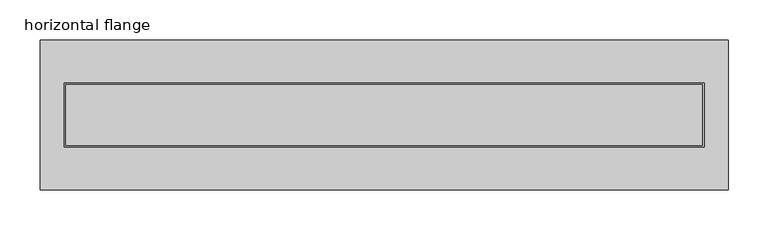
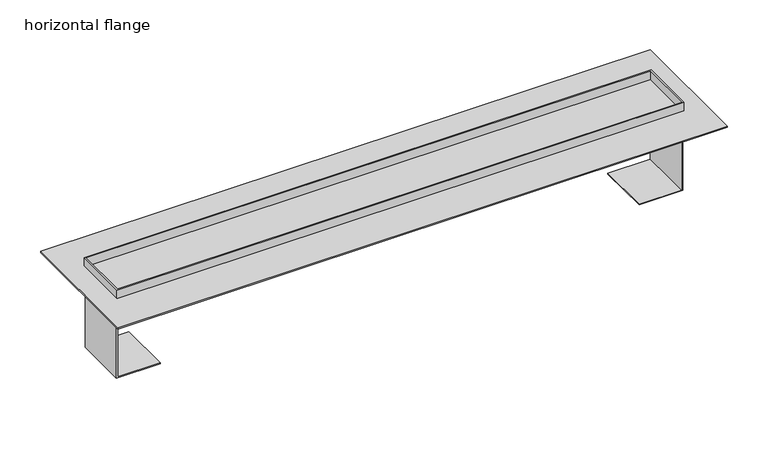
"""IFC4 building model written with IfcOpenShell, lengths in millimetres: sanitary terminal geometry, PF_UN_ShowerDrain M plus_ACO : horizontal flange."""

from ifc_helpers import new_model, si_unit, frame, origin, origin_with_axes, place, context, project, spatial, polyline, outline, extrude, faceted_brep, source, transform, mapped, element, save


def horizontal_flange_7aac90f1(model_context):
    return source(origin(), model_context, "Body", "SolidModel", [
        extrude(outline(polyline([(430.0, 94.0), (430.0, -94.0), (-430.0, -94.0), (-430.0, 94.0), (430.0, 94.0)])), origin_with_axes(), (0.0, 0.0, 1.0), 2.0),
        extrude(outline(polyline([(-16.5, -398.0), (-16.5, -400.0), (-117.5, -400.0), (-117.5, -338.0), (-116.5, -338.0), (-116.5, -398.0), (-16.5, -398.0)])), frame((0.0, -38.0, 0.0), z_axis=(0.0, 1.0, 0.0), x_axis=(0.0, 0.0, 1.0)), (0.0, 0.0, 1.0), 76.0),
        extrude(outline(polyline([(-16.5, 398.0), (-116.5, 398.0), (-116.5, 338.0), (-117.5, 338.0), (-117.5, 400.0), (-16.5, 400.0), (-16.5, 398.0)])), frame((0.0, -38.0, 0.0), z_axis=(0.0, 1.0, 0.0), x_axis=(0.0, 0.0, 1.0)), (0.0, 0.0, 1.0), 76.0),
        faceted_brep([(400.0, 40.0, 15.0), (-400.0, 40.0, 15.0), (-400.0, -40.0, 15.0), (400.0, -40.0, 15.0), (-398.0, -38.0, 15.0), (-398.0, 38.0, 15.0), (398.0, 38.0, 15.0), (398.0, -38.0, 15.0), (400.0, 40.0, -16.5), (400.0, -40.0, -16.5), (-400.0, -40.0, -16.5), (-400.0, 40.0, -16.5), (-398.0, 38.0, -6.0), (-398.0, -38.0, -6.0), (398.0, -38.0, -6.0), (398.0, 38.0, -6.0)], [[[0, 1, 2, 3], [4, 5, 6, 7]], [[8, 9, 10, 11]], [[1, 0, 8, 11]], [[2, 1, 11, 10]], [[3, 2, 10, 9]], [[0, 3, 9, 8]], [[12, 13, 14, 15]], [[13, 12, 5, 4]], [[14, 13, 4, 7]], [[15, 14, 7, 6]], [[12, 15, 6, 5]]]),
    ])


if __name__ == "__main__":
    model = new_model("IFC4")
    model_context = context("Model", 3, world=origin())
    ifc_project = project(units=[si_unit("LENGTHUNIT", "METRE", prefix="MILLI")], contexts=[model_context])
    site = spatial("IfcSite", under=ifc_project)
    building = spatial("IfcBuilding", under=site)
    placement = place(None, origin())
    horizontal_flange_shape = horizontal_flange_7aac90f1(model_context)
    element("IfcSanitaryTerminal", 1, ObjectType="PF_UN_ShowerDrain M plus_ACO : horizontal flange", at=placement, inside=building, context=model_context, shape_type="MappedRepresentation", body=[
        mapped(horizontal_flange_shape, transform((0.0, 0.0, 0.0), x_axis=(1.0, 0.0, 0.0), y_axis=(0.0, 1.0, 0.0), z_axis=(0.0, 0.0, 1.0))),
    ])
    save(model, "model.ifc")
